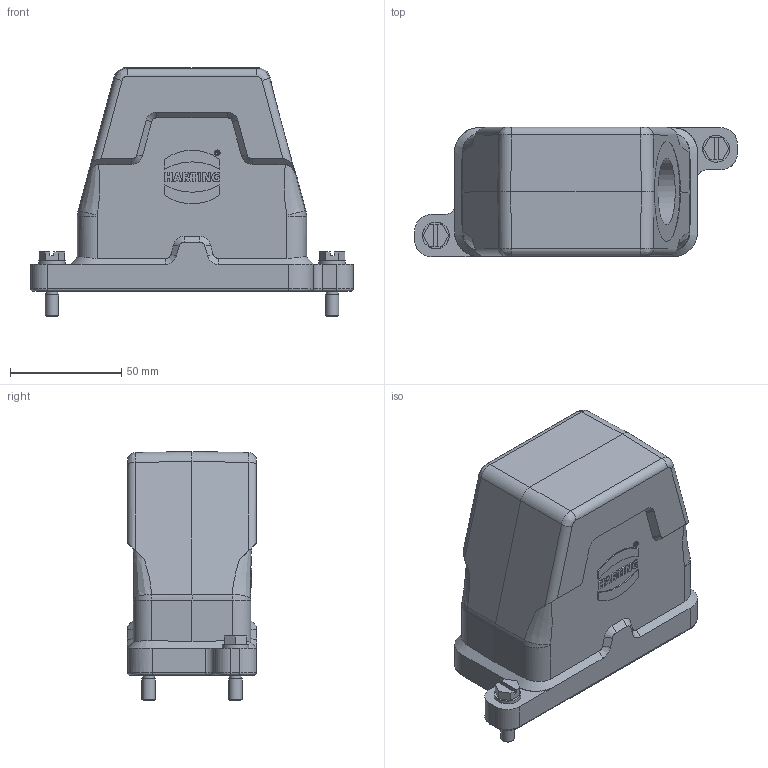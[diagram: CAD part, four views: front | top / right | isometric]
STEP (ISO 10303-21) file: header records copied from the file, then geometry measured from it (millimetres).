
FILE_DESCRIPTION(/* description */ (''),/* implementation_level */ '2;1');
FILE_NAME(/* name */ '100121694ugm000_c.stp',/* time_stamp */ '2022-03-11T16:20:07+01:00',/* author */ (''),/* organization */ (''),/* preprocessor_version */ 'ST-DEVELOPER v16.7',/* originating_system */ 'SIEMENS PLM Software NX 1911',/* authorisation */ '');
FILE_SCHEMA (('AUTOMOTIVE_DESIGN { 1 0 10303 214 3 1 1 1 }'));
Length unit declared in the file: millimetre
Products named in the file (1): 100121694ugm000_c
Bounding box: 145 x 58 x 111.9 mm (x, y, z)
Volume: 181825.9 mm3; surface area: 68751.8 mm2
Topology: 1 solids, 1 shells, 436 faces, 1099 edges, 690 vertices
Faces by surface type: plane 209, cylinder 111, bspline 57, cone 32, torus 24, extrusion 3
Full cylindrical faces by diameter (mm): 1.75 x1, 2.5 x1, 2.74 x4, 5.3 x2, 6 x2, 12 x2, 13 x2, 14.05 x2, 30.1 x1, 45 x1
Entity records: 18648 total; most frequent: CARTESIAN_POINT 5624, ORIENTED_EDGE 2060, DIRECTION 1969, EDGE_CURVE 1030, AXIS2_PLACEMENT_3D 679, VERTEX_POINT 662, VECTOR 611, LINE 608
